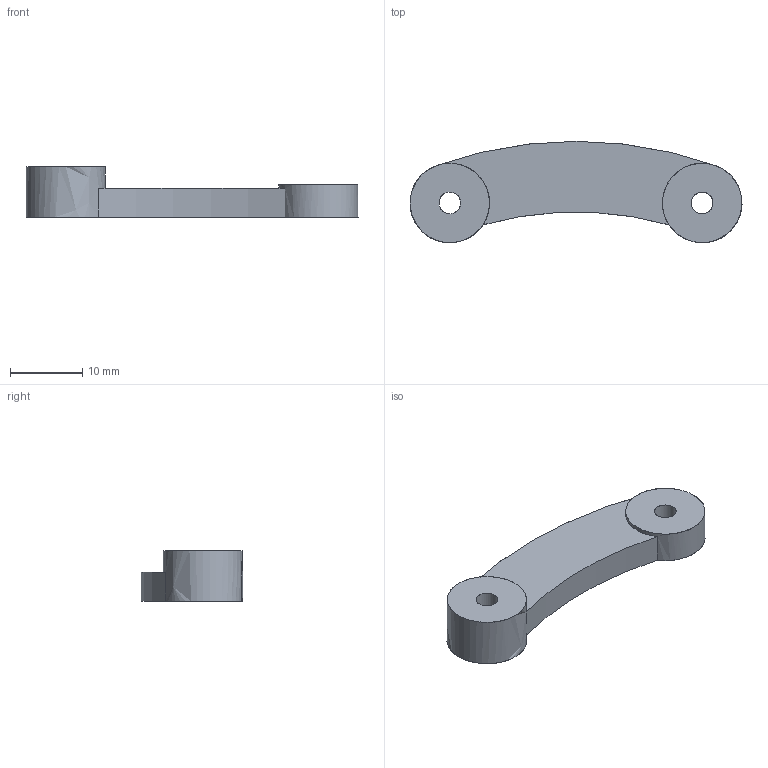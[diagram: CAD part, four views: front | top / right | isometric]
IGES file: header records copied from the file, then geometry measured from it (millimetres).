
Global section: file name: C:\Users\gehrichcr\Documents\1 Drive Backup\Practice\Inspire\V1.5\IGES\Boom Lift Linkage Sweep 2.igs; native system: NX V8.5; preprocessor: SIEMENS PLM Software NX 8.5; date: 20150619.102343; units: millimetre
Bounding box: 46.05 x 14.05 x 7 mm (x, y, z)
Surface area: 1539.7 mm2 (no closed solid volume)
Topology: 0 solids, 0 shells, 10 faces, 105 edges, 102 vertices
Faces by surface type: bspline 10
